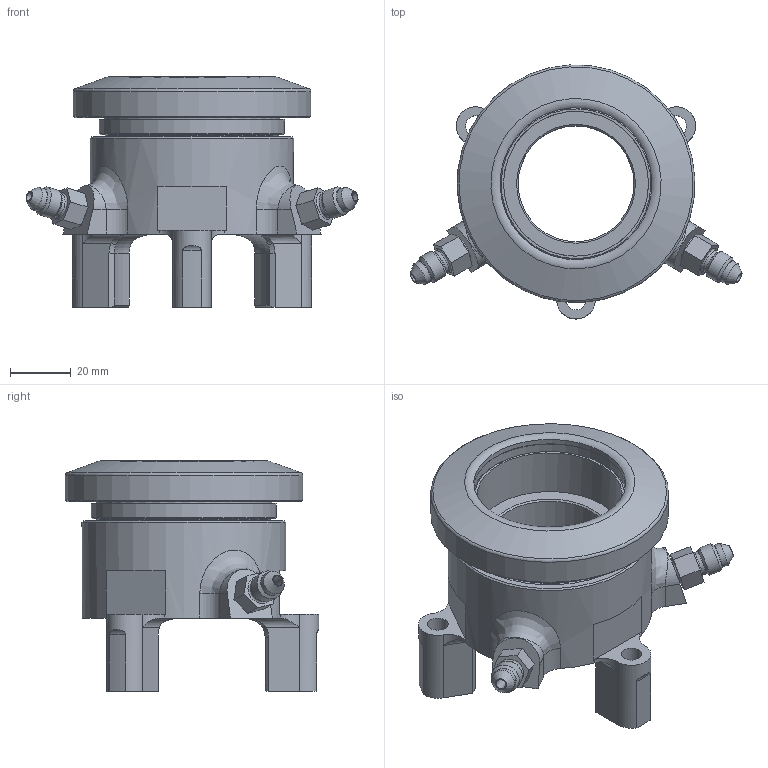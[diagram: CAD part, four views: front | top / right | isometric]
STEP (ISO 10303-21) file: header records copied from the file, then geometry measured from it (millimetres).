
FILE_DESCRIPTION(/* description */ ('Unknown'),/* implementation_level */ '2;1');
FILE_NAME(/* name */ '60-3420',/* time_stamp */ '2024-12-17T10:12:20-08:00',/* author */ ('Unknown'),/* organization */ ('Unknown'),/* preprocessor_version */ 'ST-DEVELOPER v18.104',/* originating_system */ 'Solid Edge',/* authorisation */ 'Unknown');
FILE_SCHEMA (('AUTOMOTIVE_DESIGN {1 0 10303 214 3 1 1}'));
Length unit declared in the file: millimetre
Products named in the file (1): 60-3420
Bounding box: 109.26 x 83.54 x 75.96 mm (x, y, z)
Volume: 134123.9 mm3; surface area: 39237.1 mm2
Topology: 1 solids, 1 shells, 168 faces, 426 edges, 271 vertices
Faces by surface type: plane 59, cylinder 51, cone 30, torus 20, bspline 8
Full cylindrical faces by diameter (mm): 3.175 x2, 6.746 x3, 7.734 x2, 7.925 x4, 9.525 x2, 38.1 x1, 47.714 x1, 50 x1, 50.794 x1, 50.8 x1, 57.061 x1, 58.001 x1, 60.96 x1, 61.925 x1, 67.056 x1, 78.3 x1
Entity records: 6570 total; most frequent: CARTESIAN_POINT 1714, DIRECTION 742, ORIENTED_EDGE 696, EDGE_CURVE 348, AXIS2_PLACEMENT_3D 306, VERTEX_POINT 252, FACE_BOUND 246, EDGE_LOOP 244
